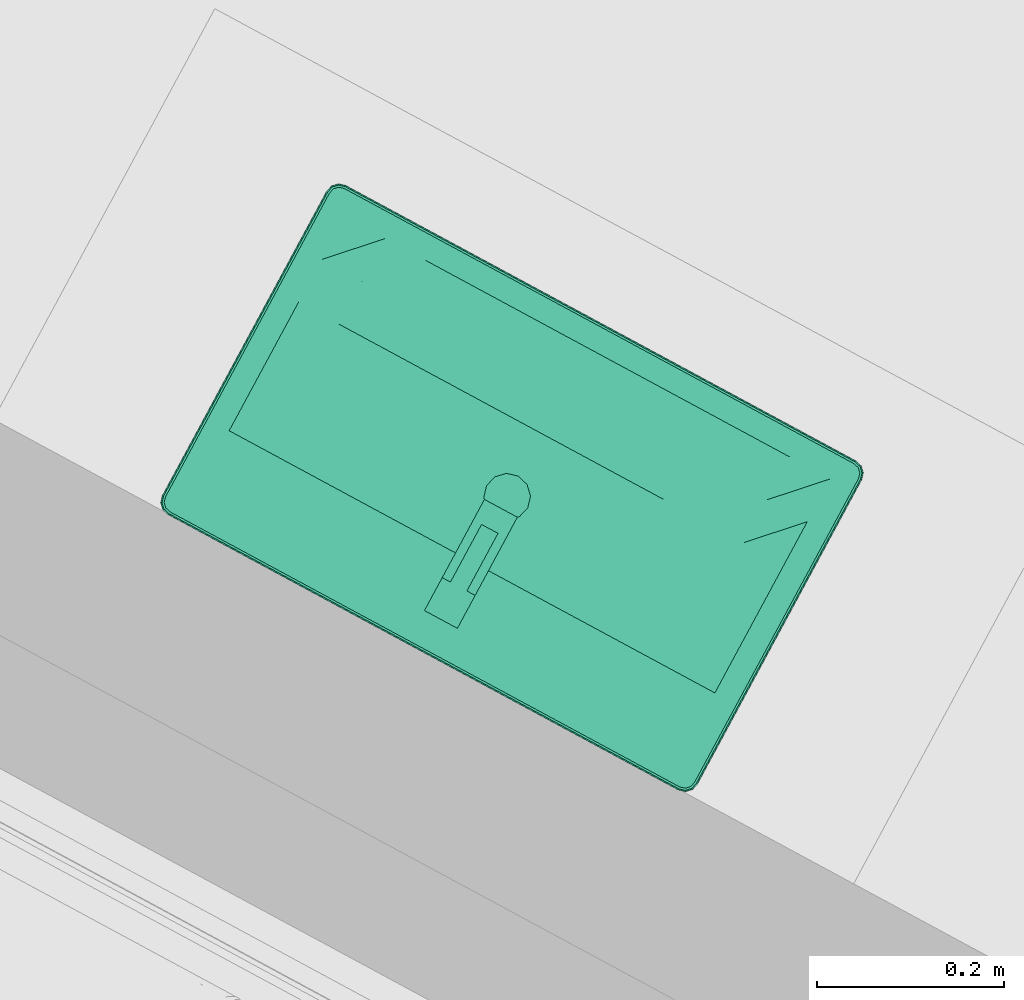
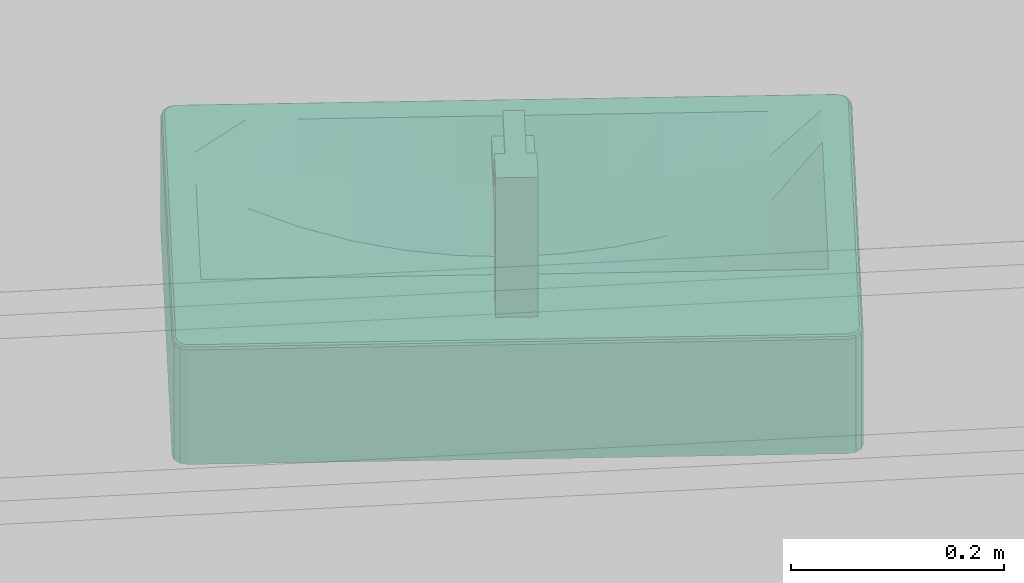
# One storey, part 16 of 48: 1 distribution element.
"""IFC2X3 building model written with IfcOpenShell, lengths in metres."""

from ifc_helpers import new_model, entity, si_unit, converted_unit, derived_unit, money_unit, direction, frame, origin_with_axes, place, context, subcontext, project, spatial, open_shell, faceted_brep, surface_model, type_object, element, save


model = new_model("IFC2X3")

# Units and contexts
model_context = context("Model", 3, precision=1e-05, world=origin_with_axes(), true_north=direction((0.0, 1.0)))
body_context = subcontext(model_context, "Body", "Model", "MODEL_VIEW")
ifc_project = project(units=[si_unit("LENGTHUNIT", "METRE"), si_unit("AREAUNIT", "SQUARE_METRE"), si_unit("VOLUMEUNIT", "CUBIC_METRE"), converted_unit("PLANEANGLEUNIT", "DEGREE", entity("IfcPlaneAngleMeasure", 0.0174532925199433), si_unit("PLANEANGLEUNIT", "RADIAN"), dimensions=[0, 0, 0, 0, 0, 0, 0]), money_unit("EUR"), converted_unit("TIMEUNIT", "Year", entity("IfcTimeMeasure", 31556926.0), si_unit("TIMEUNIT", "SECOND"), dimensions=[0, 0, 1, 0, 0, 0, 0]), si_unit("MASSUNIT", "GRAM", prefix="KILO"), si_unit("THERMODYNAMICTEMPERATUREUNIT", "DEGREE_CELSIUS"), si_unit("LUMINOUSINTENSITYUNIT", "LUMEN"), si_unit("ENERGYUNIT", "JOULE", prefix="MEGA"), derived_unit("THERMALCONDUCTANCEUNIT", [(si_unit("POWERUNIT", "WATT"), 1), (si_unit("LENGTHUNIT", "METRE"), -1), (si_unit("THERMODYNAMICTEMPERATUREUNIT", "KELVIN"), -1)]), derived_unit("SPECIFICHEATCAPACITYUNIT", [(si_unit("ENERGYUNIT", "JOULE"), 1), (si_unit("MASSUNIT", "GRAM", prefix="KILO"), -1), (si_unit("THERMODYNAMICTEMPERATUREUNIT", "KELVIN"), -1)]), derived_unit("MASSDENSITYUNIT", [(si_unit("MASSUNIT", "GRAM", prefix="KILO"), 1), (si_unit("VOLUMEUNIT", "CUBIC_METRE"), -1)])], contexts=[model_context])

# Site, building, storey
site_placement = place(None, frame((-3.949935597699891, 1.740105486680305, 0.0), z_axis=(0.0, 0.0, 1.0), x_axis=(0.8799804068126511, -0.475009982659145, 0.0)))
site = spatial("IfcSite", under=ifc_project, at=site_placement, Name="Gelände", CompositionType="ELEMENT")
building_placement = place(site_placement, origin_with_axes())
building = spatial("IfcBuilding", under=site, at=building_placement, Name="Gebäude", CompositionType="ELEMENT")
storey_placement = place(building_placement, frame((0.0, 0.0, 4.55), z_axis=(0.0, 0.0, 1.0), x_axis=(1.0, 0.0, 0.0)))
storey = spatial("IfcBuildingStorey", under=building, at=storey_placement, Name="Staffelgeschoss", CompositionType="ELEMENT", Elevation=4.55)

# Distribution element
distribution_element_type = type_object("IfcDistributionElementType", Name="Waschbecken 1 22")
distribution_element_placement = place(storey_placement, frame((7.580280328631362, 5.492152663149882, 0.0), z_axis=(0.0, 0.0, 1.0), x_axis=(-1.0, 0.0, 0.0)))
element("IfcDistributionElement", 1, at=distribution_element_placement, inside=storey, type_object=distribution_element_type, Name="Objekt-0061", context=body_context, shape_type="SurfaceModel", body=[
    faceted_brep([(0.3099999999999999, -0.4, 0.715), (-0.3100000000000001, -0.4, 0.715), (-0.3175, -0.3979903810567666, 0.715), (-0.3229903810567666, -0.3925, 0.715), (-0.3250000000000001, -0.385, 0.715), (-0.3250000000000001, -0.01499999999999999, 0.715), (-0.3229903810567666, -0.007500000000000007, 0.715), (-0.3175, -0.002009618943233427, 0.715), (-0.3100000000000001, 0.0, 0.715), (0.3099999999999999, 0.0, 0.715), (0.3175, -0.002009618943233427, 0.715), (0.3229903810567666, -0.007500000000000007, 0.715), (0.325, -0.01499999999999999, 0.715), (0.325, -0.385, 0.715), (0.3229903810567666, -0.3925, 0.715), (0.3175, -0.3979903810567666, 0.715), (-0.295, -0.37, 0.715), (0.295, -0.37, 0.715), (0.295, -0.11, 0.715), (-0.295, -0.11, 0.715), (0.3100000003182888, -0.4000000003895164, 0.845), (-0.3099999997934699, -0.4000000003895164, 0.845), (-0.3175000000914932, -0.3979903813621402, 0.845), (-0.3229903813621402, -0.3925000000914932, 0.845), (-0.3250000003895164, -0.3849999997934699, 0.845), (-0.3250000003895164, -0.01499999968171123, 0.845), (-0.3229903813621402, -0.00750000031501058, 0.845), (-0.3175000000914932, -0.002009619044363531, 0.845), (-0.3099999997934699, 0.0, 0.845), (0.3100000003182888, 0.0, 0.845), (0.3174999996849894, -0.002009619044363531, 0.845), (0.3229903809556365, -0.00750000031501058, 0.845), (0.3249999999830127, -0.01499999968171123, 0.845), (0.3249999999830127, -0.3849999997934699, 0.845), (0.3229903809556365, -0.3925000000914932, 0.845), (0.3174999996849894, -0.3979903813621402, 0.845), (-0.295, -0.37, 0.84999999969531), (0.295, -0.37, 0.84999999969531), (0.295, -0.11, 0.84999999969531), (-0.295, -0.11, 0.84999999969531), (0.3099775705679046, -0.3998296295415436, 0.8462940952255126), (-0.3099775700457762, -0.3998296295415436, 0.8462940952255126), (-0.3174118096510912, -0.3978376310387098, 0.8462940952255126), (-0.3228376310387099, -0.3924118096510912, 0.8462940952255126), (-0.3248296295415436, -0.3849775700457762, 0.8462940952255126), (-0.3248296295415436, -0.01502242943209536, 0.8462940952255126), (-0.3228376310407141, -0.007588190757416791, 0.8462940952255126), (-0.3174118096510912, -0.002162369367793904, 0.8462940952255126), (-0.3099775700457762, -0.0001703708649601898, 0.8462940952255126), (0.3099775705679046, -0.0001703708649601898, 0.8462940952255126), (0.3174118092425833, -0.002162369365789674, 0.8462940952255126), (0.3228376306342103, -0.007588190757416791, 0.8462940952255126), (0.3248296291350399, -0.01502242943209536, 0.8462940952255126), (0.3248296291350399, -0.3849775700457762, 0.8462940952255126), (0.3228376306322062, -0.3924118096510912, 0.8462940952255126), (0.3174118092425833, -0.3978376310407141, 0.8462940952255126), (-0.3093417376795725, -0.004999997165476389, 0.84999999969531), (-0.3149118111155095, -0.006492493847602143, 0.84999999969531), (-0.3185075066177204, -0.01008818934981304, 0.84999999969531), (-0.3200000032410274, -0.01565826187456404, 0.84999999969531), (-0.3200000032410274, -0.3843417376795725, 0.84999999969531), (-0.3185075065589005, -0.3899118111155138, 0.84999999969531), (-0.3149118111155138, -0.3935075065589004, 0.84999999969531), (-0.3093417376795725, -0.3950000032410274, 0.84999999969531), (0.309341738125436, -0.3950000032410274, 0.84999999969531), (0.314911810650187, -0.3935075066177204, 0.84999999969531), (0.3185075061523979, -0.3899118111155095, 0.84999999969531), (0.3200000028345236, -0.3843417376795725, 0.84999999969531), (0.3200000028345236, -0.01565826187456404, 0.84999999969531), (0.3185075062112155, -0.01008818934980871, 0.84999999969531), (0.3149118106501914, -0.006492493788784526, 0.84999999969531), (0.309341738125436, -0.004999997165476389, 0.84999999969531), (0.3098071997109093, -0.3985355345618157, 0.8485355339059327), (-0.309807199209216, -0.3985355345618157, 0.8485355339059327), (-0.3167419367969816, -0.3966773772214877, 0.8485355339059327), (-0.3216773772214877, -0.3917419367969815, 0.8485355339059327), (-0.3235355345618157, -0.384807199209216, 0.8485355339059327), (-0.3235355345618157, -0.0151928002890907, 0.8485355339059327), (-0.3216773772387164, -0.008258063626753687, 0.8485355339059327), (-0.3167419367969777, -0.003322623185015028, 0.8485355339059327), (-0.309807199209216, -0.001464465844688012, 0.8485355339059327), (0.3098071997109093, -0.001464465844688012, 0.8485355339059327), (0.3167419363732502, -0.003322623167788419, 0.8485355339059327), (0.3216773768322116, -0.008258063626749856, 0.8485355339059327), (0.323535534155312, -0.0151928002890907, 0.8485355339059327), (0.323535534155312, -0.384807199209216, 0.8485355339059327), (0.321677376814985, -0.3917419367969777, 0.8485355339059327), (0.3167419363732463, -0.3966773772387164, 0.8485355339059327), (-0.3155816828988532, -0.005332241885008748, 0.8498296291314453), (-0.3095121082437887, -0.00370590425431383, 0.8498296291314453), (-0.3196677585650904, -0.009418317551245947, 0.8498296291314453), (-0.32129409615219, -0.01548789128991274, 0.8498296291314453), (-0.32129409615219, -0.3845121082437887, 0.8498296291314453), (-0.319667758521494, -0.3905816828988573, 0.8498296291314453), (-0.3155816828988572, -0.3946677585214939, 0.8498296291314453), (-0.3095121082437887, -0.3962940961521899, 0.8498296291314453), (0.3095121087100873, -0.3962940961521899, 0.8498296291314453), (0.3155816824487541, -0.3946677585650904, 0.8498296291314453), (0.3196677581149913, -0.3905816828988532, 0.8498296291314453), (0.3212940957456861, -0.3845121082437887, 0.8498296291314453), (0.3212940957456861, -0.01548789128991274, 0.8498296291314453), (0.3196677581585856, -0.00941831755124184, 0.8498296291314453), (0.3155816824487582, -0.005332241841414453, 0.8498296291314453), (0.3095121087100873, -0.00370590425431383, 0.8498296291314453)], [[[0, 1, 2, 3, 4, 5, 6, 7, 8, 9, 10, 11, 12, 13, 14, 15], [16, 17, 18, 19]], [[0, 20, 21, 1]], [[1, 21, 22, 2]], [[2, 22, 23, 3]], [[3, 23, 24, 4]], [[4, 24, 25, 5]], [[5, 25, 26, 6]], [[6, 26, 27, 7]], [[7, 27, 28, 8]], [[8, 28, 29, 9]], [[9, 29, 30, 10]], [[10, 30, 31, 11]], [[11, 31, 32, 12]], [[12, 32, 33, 13]], [[13, 33, 34, 14]], [[14, 34, 35, 15]], [[15, 35, 20, 0]], [[36, 37, 17, 16]], [[37, 38, 18, 17]], [[38, 39, 19, 18]], [[39, 36, 16, 19]], [[20, 40, 41, 21]], [[21, 41, 42, 22]], [[22, 42, 43, 23]], [[23, 43, 44, 24]], [[24, 44, 45, 25]], [[25, 45, 46, 26]], [[26, 46, 47, 27]], [[27, 47, 48, 28]], [[28, 48, 49, 29]], [[29, 49, 50, 30]], [[30, 50, 51, 31]], [[31, 51, 52, 32]], [[32, 52, 53, 33]], [[33, 53, 54, 34]], [[34, 54, 55, 35]], [[35, 55, 40, 20]], [[56, 57, 58, 59, 60, 61, 62, 63, 64, 65, 66, 67, 68, 69, 70, 71], [36, 39, 38, 37]], [[40, 72, 73, 41]], [[41, 73, 74, 42]], [[42, 74, 75, 43]], [[43, 75, 76, 44]], [[44, 76, 77, 45]], [[45, 77, 78, 46]], [[46, 78, 79, 47]], [[47, 79, 80, 48]], [[48, 80, 81, 49]], [[49, 81, 82, 50]], [[50, 82, 83, 51]], [[51, 83, 84, 52]], [[52, 84, 85, 53]], [[53, 85, 86, 54]], [[54, 86, 87, 55]], [[55, 87, 72, 40]], [[88, 57, 56, 89]], [[90, 58, 57, 88]], [[91, 59, 58, 90]], [[92, 60, 59, 91]], [[93, 61, 60, 92]], [[94, 62, 61, 93]], [[95, 63, 62, 94]], [[96, 64, 63, 95]], [[97, 65, 64, 96]], [[98, 66, 65, 97]], [[99, 67, 66, 98]], [[100, 68, 67, 99]], [[101, 69, 68, 100]], [[102, 70, 69, 101]], [[103, 71, 70, 102]], [[89, 56, 71, 103]], [[72, 96, 95, 73]], [[73, 95, 94, 74]], [[74, 94, 93, 75]], [[75, 93, 92, 76]], [[76, 92, 91, 77]], [[77, 91, 90, 78]], [[78, 90, 88, 79]], [[79, 88, 89, 80]], [[80, 89, 103, 81]], [[81, 103, 102, 82]], [[82, 102, 101, 83]], [[83, 101, 100, 84]], [[84, 100, 99, 85]], [[85, 99, 98, 86]], [[86, 98, 97, 87]], [[87, 97, 96, 72]]]),
    faceted_brep([(-0.295, -0.37, 0.715), (-0.295, -0.11, 0.715), (0.295, -0.11, 0.715), (0.295, -0.37, 0.715), (0.01249999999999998, -0.210733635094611, 0.715), (0.02165063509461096, -0.201583, 0.715), (0.025, -0.189083, 0.715), (0.02165063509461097, -0.176583, 0.715), (0.01250000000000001, -0.167432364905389, 0.715), (0.0, -0.164083, 0.715), (-0.01249999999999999, -0.167432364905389, 0.715), (-0.02165063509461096, -0.176583, 0.715), (-0.025, -0.189083, 0.715), (-0.02165063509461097, -0.201583, 0.715), (-0.01250000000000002, -0.210733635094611, 0.715), (0.0, -0.214083, 0.715), (-0.295, -0.266, 0.8499999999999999), (-0.295, -0.214, 0.85), (-0.295, -0.162, 0.85), (-0.295, -0.11, 0.85), (-0.295, -0.37, 0.85), (-0.295, -0.318, 0.8500000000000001), (0.1475, -0.11, 0.7729670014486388), (0.1966666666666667, -0.11, 0.7916517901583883), (0.2458333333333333, -0.11, 0.8168998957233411), (0.295, -0.11, 0.8500000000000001), (-0.2458333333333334, -0.11, 0.8168998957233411), (-0.1966666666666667, -0.11, 0.7916517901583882), (-0.1475, -0.11, 0.7729670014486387), (-0.09833333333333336, -0.11, 0.7600704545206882), (-0.04916666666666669, -0.11, 0.7524979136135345), (0.0, -0.11, 0.75), (0.04916666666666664, -0.11, 0.7524979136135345), (0.09833333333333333, -0.11, 0.7600704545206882), (0.295, -0.214, 0.8500000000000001), (0.295, -0.266, 0.8500000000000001), (0.295, -0.318, 0.8500000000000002), (0.295, -0.37, 0.85), (0.295, -0.162, 0.8500000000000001), (-0.1475, -0.37, 0.85), (-0.1966666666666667, -0.37, 0.85), (-0.2458333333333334, -0.37, 0.85), (0.2458333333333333, -0.37, 0.85), (0.1966666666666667, -0.37, 0.85), (0.1475, -0.37, 0.85), (0.09833333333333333, -0.37, 0.85), (0.04916666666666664, -0.37, 0.85), (0.0, -0.37, 0.85), (-0.04916666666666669, -0.37, 0.85), (-0.09833333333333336, -0.37, 0.85), (0.01249999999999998, -0.210733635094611, 0.750635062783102), (0.02165063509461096, -0.201583, 0.7510999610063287), (0.025, -0.189083, 0.751270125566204), (0.02165063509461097, -0.176583, 0.7510999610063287), (0.01250000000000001, -0.167432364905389, 0.750635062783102), (0.0, -0.164083, 0.75), (-0.01249999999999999, -0.167432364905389, 0.750635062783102), (-0.02165063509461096, -0.176583, 0.7510999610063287), (-0.025, -0.189083, 0.751270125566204), (-0.02165063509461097, -0.201583, 0.7510999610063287), (-0.01250000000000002, -0.210733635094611, 0.750635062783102), (-6.261427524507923e-05, -0.2140662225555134, 0.7500169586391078), (0.0, -0.214083, 0.7500176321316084), (-0.0003097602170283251, -0.214, 0.7500157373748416), (0.0003097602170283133, -0.214, 0.7500157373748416), (-0.2458333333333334, -0.214, 0.8168998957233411), (-0.2458333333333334, -0.162, 0.8168998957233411), (-0.2458333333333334, -0.318, 0.8357260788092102), (-0.2458333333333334, -0.266, 0.8210440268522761), (0.1966666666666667, -0.162, 0.7916517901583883), (0.1475, -0.162, 0.7729670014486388), (0.2458333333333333, -0.162, 0.8168998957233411), (-0.1966666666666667, -0.162, 0.7916517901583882), (-0.1475, -0.162, 0.7729670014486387), (-0.09833333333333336, -0.162, 0.7600704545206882), (-0.04916666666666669, -0.162, 0.7524979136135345), (0.0, -0.162, 0.75), (0.04916666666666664, -0.162, 0.7524979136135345), (0.09833333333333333, -0.162, 0.7600704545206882), (0.2458333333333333, -0.266, 0.8210440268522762), (0.2458333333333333, -0.318, 0.8357260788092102), (0.2458333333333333, -0.214, 0.8168998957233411), (-0.1475, -0.318, 0.8153432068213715), (-0.1966666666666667, -0.318, 0.8242069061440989), (0.1966666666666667, -0.318, 0.8242069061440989), (0.1475, -0.318, 0.8153432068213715), (0.09833333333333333, -0.318, 0.8090618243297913), (0.04916666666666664, -0.318, 0.8053125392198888), (0.0, -0.318, 0.8040659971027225), (-0.04916666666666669, -0.318, 0.8053125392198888), (-0.09833333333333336, -0.318, 0.8090618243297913), (0.04916666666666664, -0.214, 0.7524979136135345), (-0.04916666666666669, -0.214, 0.7524979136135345), (-0.04916666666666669, -0.266, 0.7633164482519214), (0.0, -0.266, 0.7610466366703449), (-0.1966666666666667, -0.214, 0.7916517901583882), (0.1966666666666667, -0.214, 0.7916517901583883), (0.1475, -0.214, 0.7729670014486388), (-0.1475, -0.214, 0.7729670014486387), (-0.09833333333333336, -0.214, 0.7600704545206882), (0.09833333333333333, -0.214, 0.7600704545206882), (-0.09833333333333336, -0.266, 0.7701848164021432), (0.04916666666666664, -0.266, 0.7633164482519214), (-0.1966666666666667, -0.266, 0.7986083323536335), (0.1475, -0.266, 0.7818364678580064), (0.1966666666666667, -0.266, 0.7986083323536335), (-0.1475, -0.266, 0.7818364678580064), (0.09833333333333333, -0.266, 0.7701848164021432)], [[[0, 1, 2, 3], [4, 5, 6, 7, 8, 9, 10, 11, 12, 13, 14, 15]], [[16, 17, 18, 19, 1, 0, 20, 21]], [[22, 23, 24, 25, 2, 1, 19, 26, 27, 28, 29, 30, 31, 32, 33]], [[34, 35, 36, 37, 3, 2, 25, 38]], [[39, 40, 41, 20, 0, 3, 37, 42, 43, 44, 45, 46, 47, 48, 49]], [[50, 51, 5, 4]], [[51, 52, 6, 5]], [[52, 53, 7, 6]], [[53, 54, 8, 7]], [[54, 55, 9, 8]], [[55, 56, 10, 9]], [[56, 57, 11, 10]], [[57, 58, 12, 11]], [[58, 59, 13, 12]], [[59, 60, 14, 13]], [[61, 62, 15, 14, 60, 63]], [[64, 50, 4, 15, 62]], [[16, 65, 17]], [[65, 66, 18, 17]], [[66, 26, 19, 18]], [[20, 67, 21]], [[21, 68, 16]], [[69, 23, 22, 70]], [[71, 24, 23, 69]], [[38, 25, 24, 71]], [[72, 27, 26, 66]], [[73, 28, 27, 72]], [[74, 29, 28, 73]], [[75, 30, 29, 74]], [[76, 31, 30, 75]], [[77, 32, 31, 76]], [[78, 33, 32, 77]], [[70, 22, 33, 78]], [[79, 35, 34]], [[80, 36, 35]], [[42, 37, 36]], [[34, 38, 71, 81]], [[40, 39, 82]], [[41, 40, 83]], [[20, 41, 67]], [[43, 42, 80]], [[44, 43, 84]], [[45, 44, 85]], [[46, 45, 86]], [[47, 46, 87]], [[48, 47, 88]], [[49, 48, 89]], [[39, 49, 90]], [[54, 53, 52, 51, 50, 64, 91, 77, 76, 55]], [[56, 55, 76, 75, 92, 63, 60, 59, 58, 57]], [[62, 61, 93, 94]], [[61, 63, 92, 93]], [[64, 62, 94, 91]], [[16, 68, 65]], [[95, 72, 66, 65]], [[21, 67, 68]], [[96, 69, 70, 97]], [[81, 71, 69, 96]], [[98, 73, 72, 95]], [[99, 74, 73, 98]], [[92, 75, 74, 99]], [[100, 78, 77, 91]], [[97, 70, 78, 100]], [[80, 35, 79]], [[79, 34, 81]], [[42, 36, 80]], [[39, 90, 82]], [[40, 82, 83]], [[41, 83, 67]], [[43, 80, 84]], [[44, 84, 85]], [[45, 85, 86]], [[46, 86, 87]], [[47, 87, 88]], [[48, 88, 89]], [[49, 89, 90]], [[89, 94, 93]], [[101, 93, 92]], [[94, 102, 91]], [[68, 95, 65]], [[67, 103, 68]], [[104, 96, 97]], [[105, 81, 96]], [[103, 98, 95]], [[106, 99, 98]], [[101, 92, 99]], [[102, 100, 91]], [[107, 97, 100]], [[84, 80, 79]], [[105, 79, 81]], [[82, 90, 101]], [[83, 82, 106]], [[67, 83, 103]], [[85, 84, 105]], [[86, 85, 104]], [[87, 86, 107]], [[88, 87, 102]], [[89, 88, 94]], [[90, 89, 93]], [[90, 93, 101]], [[88, 102, 94]], [[68, 103, 95]], [[104, 105, 96]], [[107, 104, 97]], [[103, 106, 98]], [[106, 101, 99]], [[102, 107, 100]], [[84, 79, 105]], [[82, 101, 106]], [[83, 106, 103]], [[85, 105, 104]], [[86, 104, 107]], [[87, 107, 102]]]),
    faceted_brep([(0.02165063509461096, -0.201583, 0.75), (0.01249999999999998, -0.210733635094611, 0.75), (0.0, -0.214083, 0.75), (-0.01250000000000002, -0.210733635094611, 0.75), (-0.02165063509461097, -0.201583, 0.75), (-0.025, -0.189083, 0.75), (-0.02165063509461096, -0.176583, 0.75), (-0.01249999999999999, -0.167432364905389, 0.75), (0.0, -0.164083, 0.75), (0.01250000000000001, -0.167432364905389, 0.75), (0.02165063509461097, -0.176583, 0.75), (0.025, -0.189083, 0.75), (0.02165063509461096, -0.201583, 0.755), (0.01249999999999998, -0.210733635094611, 0.755), (0.0, -0.214083, 0.755), (-0.01250000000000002, -0.210733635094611, 0.755), (-0.02165063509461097, -0.201583, 0.755), (-0.025, -0.189083, 0.755), (-0.02165063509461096, -0.176583, 0.755), (-0.01249999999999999, -0.167432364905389, 0.755), (0.0, -0.164083, 0.755), (0.01250000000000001, -0.167432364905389, 0.755), (0.02165063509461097, -0.176583, 0.755), (0.025, -0.189083, 0.755)], [[[0, 1, 2, 3, 4, 5, 6, 7, 8, 9, 10, 11]], [[1, 0, 12, 13]], [[2, 1, 13, 14]], [[3, 2, 14, 15]], [[4, 3, 15, 16]], [[5, 4, 16, 17]], [[6, 5, 17, 18]], [[7, 6, 18, 19]], [[8, 7, 19, 20]], [[9, 8, 20, 21]], [[10, 9, 21, 22]], [[11, 10, 22, 23]], [[0, 11, 23, 12]], [[12, 23, 22, 21, 20, 19, 18, 17, 16, 15, 14, 13]]]),
    surface_model("IfcShellBasedSurfaceModel", [(0.0, -0.189083, 0.757), (0.0, -0.17646109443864, 0.7564975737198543), (-0.006310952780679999, -0.1781521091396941, 0.7564975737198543), (0.006310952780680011, -0.1781521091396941, 0.7564975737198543), (0.0, -0.164083, 0.755), (-0.0125, -0.167432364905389, 0.755), (-0.01093089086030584, -0.18277204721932, 0.7564975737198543), (0.01093089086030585, -0.18277204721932, 0.7564975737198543), (0.01250000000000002, -0.167432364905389, 0.755), (-0.02165063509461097, -0.176583, 0.755), (-0.01262190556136, -0.189083, 0.7564975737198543), (0.01262190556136, -0.189083, 0.7564975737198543), (0.02165063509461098, -0.176583, 0.755), (-0.025, -0.189083, 0.755), (-0.01093089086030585, -0.19539395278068, 0.7564975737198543), (0.01093089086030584, -0.19539395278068, 0.7564975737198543), (0.025, -0.189083, 0.755), (-0.02165063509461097, -0.201583, 0.755), (-0.006310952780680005, -0.2000138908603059, 0.7564975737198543), (0.006310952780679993, -0.2000138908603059, 0.7564975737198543), (0.02165063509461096, -0.201583, 0.755), (-0.01250000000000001, -0.210733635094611, 0.755), (0.0, -0.20170490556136, 0.7564975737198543), (0.01249999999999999, -0.210733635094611, 0.755), (0.0, -0.214083, 0.755)], [open_shell([[[0, 1, 2]], [[0, 3, 1]], [[2, 1, 4, 5]], [[0, 2, 6]], [[0, 7, 3]], [[1, 3, 8, 4]], [[6, 2, 5, 9]], [[0, 6, 10]], [[0, 11, 7]], [[3, 7, 12, 8]], [[10, 6, 9, 13]], [[0, 10, 14]], [[0, 15, 11]], [[7, 11, 16, 12]], [[14, 10, 13, 17]], [[0, 14, 18]], [[0, 19, 15]], [[11, 15, 20, 16]], [[18, 14, 17, 21]], [[0, 18, 22]], [[0, 22, 19]], [[15, 19, 23, 20]], [[22, 18, 21, 24]], [[19, 22, 24, 23]]])]),
    faceted_brep([(0.02, -0.03999999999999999, 0.85), (0.02, -0.08, 0.85), (-0.02, -0.08, 0.85), (-0.02, -0.04, 0.85), (0.02000000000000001, -0.03999999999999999, 0.97), (0.02000000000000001, -0.08, 0.97), (0.02000000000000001, -0.175, 0.9633569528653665), (0.02000000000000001, -0.175, 0.945), (0.02000000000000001, -0.08, 0.945), (-0.01999999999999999, -0.08, 0.945), (-0.01999999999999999, -0.175, 0.945), (-0.01999999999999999, -0.175, 0.9633569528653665), (-0.01999999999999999, -0.08, 0.97), (-0.01999999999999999, -0.04, 0.97)], [[[0, 1, 2, 3]], [[0, 4, 5, 6, 7, 8, 1]], [[1, 8, 9, 2]], [[3, 2, 9, 10, 11, 12, 13]], [[4, 0, 3, 13]], [[5, 4, 13, 12]], [[6, 5, 12, 11]], [[7, 6, 11, 10]], [[8, 7, 10, 9]]]),
    faceted_brep([(0.02, -0.03999999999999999, 0.97), (0.02, -0.08, 0.97), (-0.02, -0.08, 0.97), (-0.02, -0.04, 0.97), (0.02, -0.03999999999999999, 1.01), (0.02, -0.08, 1.01), (-0.01999999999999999, -0.08, 1.01), (-0.02, -0.04, 1.01)], [[[0, 1, 2, 3]], [[0, 4, 5, 1]], [[1, 5, 6, 2]], [[3, 2, 6, 7]], [[4, 0, 3, 7]], [[5, 4, 7, 6]]]),
    faceted_brep([(0.01, -0.08, 1.0), (0.01000000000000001, -0.15, 1.0), (-0.009999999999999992, -0.15, 1.0), (-0.009999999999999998, -0.08, 1.0), (0.01, -0.08, 1.01), (0.01000000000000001, -0.15, 1.01), (-0.009999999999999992, -0.15, 1.01), (-0.009999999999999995, -0.08, 1.01)], [[[0, 1, 2, 3]], [[0, 4, 5, 1]], [[1, 5, 6, 2]], [[3, 2, 6, 7]], [[4, 0, 3, 7]], [[5, 4, 7, 6]]]),
])

save(model, "model.ifc")
